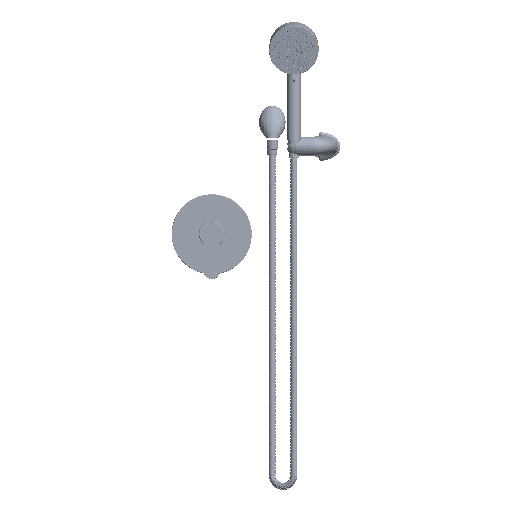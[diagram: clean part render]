
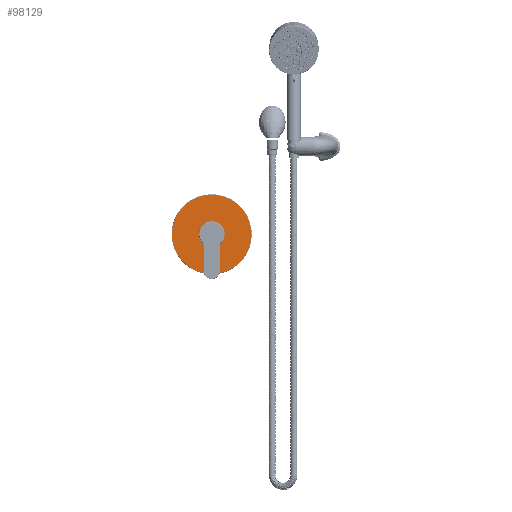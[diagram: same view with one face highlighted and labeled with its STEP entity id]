
A CAD part, top view. The second image highlights one B-rep face of the part: STEP entity #98129.
In plain terms, the highlighted planar face has unit normal (0, 0, 1).
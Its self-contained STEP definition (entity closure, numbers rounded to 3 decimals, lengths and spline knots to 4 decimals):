
#18887 = CIRCLE ( 'NONE', #64795, 3.1306 ) ;
#21430 = CARTESIAN_POINT ( 'NONE',  ( 1.9687, 3.7325, 5.2986 ) ) ;
#28479 = CARTESIAN_POINT ( 'NONE',  ( 5.0993, 3.7325, 5.2986 ) ) ;
#35749 = FACE_OUTER_BOUND ( 'NONE', #228674, .T. ) ;
#36557 = CARTESIAN_POINT ( 'NONE',  ( 1.9687, 3.7325, 5.2986 ) ) ;
#39128 = CARTESIAN_POINT ( 'NONE',  ( 1.9687, 3.7325, 5.2986 ) ) ;
#40436 = DIRECTION ( 'NONE',  ( 0., 0., 1. ) ) ;
#50359 = AXIS2_PLACEMENT_3D ( 'NONE', #36557, #116377, #196146 ) ;
#51207 = EDGE_CURVE ( 'NONE', #70795, #238923, #229998, .T. ) ;
#60031 = DIRECTION ( 'NONE',  ( 1., 0., 0. ) ) ;
#62976 = ORIENTED_EDGE ( 'NONE', *, *, #210731, .T. ) ;
#64795 = AXIS2_PLACEMENT_3D ( 'NONE', #21430, #119605, #141804 ) ;
#66908 = ORIENTED_EDGE ( 'NONE', *, *, #51207, .F. ) ;
#70795 = VERTEX_POINT ( 'NONE', #87758 ) ;
#73942 = AXIS2_PLACEMENT_3D ( 'NONE', #195352, #251648, #94664 ) ;
#78948 = EDGE_CURVE ( 'NONE', #238923, #70795, #172049, .T. ) ;
#87758 = CARTESIAN_POINT ( 'NONE',  ( 2.9942, 3.7325, 5.2986 ) ) ;
#92024 = ORIENTED_EDGE ( 'NONE', *, *, #78948, .F. ) ;
#92086 = FACE_BOUND ( 'NONE', #239491, .T. ) ;
#94664 = DIRECTION ( 'NONE',  ( 1., 0., 0. ) ) ;
#96551 = CARTESIAN_POINT ( 'NONE',  ( -1.162, 3.7325, 5.2986 ) ) ;
#98129 = ADVANCED_FACE ( 'NONE', ( #35749, #92086 ), #171861, .T. ) ;
#116377 = DIRECTION ( 'NONE',  ( 0., 0., 1. ) ) ;
#119605 = DIRECTION ( 'NONE',  ( 0., 0., 1. ) ) ;
#140172 = DIRECTION ( 'NONE',  ( 0., 0., 1. ) ) ;
#141804 = DIRECTION ( 'NONE',  ( 1., 0., 0. ) ) ;
#145806 = EDGE_CURVE ( 'NONE', #177824, #247182, #152704, .T. ) ;
#152704 = CIRCLE ( 'NONE', #215418, 3.1306 ) ;
#157195 = DIRECTION ( 'NONE',  ( 1., 0., 0. ) ) ;
#171861 = PLANE ( 'NONE',  #73942 ) ;
#172049 = CIRCLE ( 'NONE', #222068, 1.0255 ) ;
#177824 = VERTEX_POINT ( 'NONE', #28479 ) ;
#195352 = CARTESIAN_POINT ( 'NONE',  ( 1.9687, 3.7325, 5.2986 ) ) ;
#196146 = DIRECTION ( 'NONE',  ( 1., 0., 0. ) ) ;
#205495 = CARTESIAN_POINT ( 'NONE',  ( 0.9432, 3.7325, 5.2986 ) ) ;
#210731 = EDGE_CURVE ( 'NONE', #247182, #177824, #18887, .T. ) ;
#215418 = AXIS2_PLACEMENT_3D ( 'NONE', #39128, #40436, #60031 ) ;
#222068 = AXIS2_PLACEMENT_3D ( 'NONE', #238263, #140172, #157195 ) ;
#228674 = EDGE_LOOP ( 'NONE', ( #250108, #62976 ) ) ;
#229998 = CIRCLE ( 'NONE', #50359, 1.0255 ) ;
#238263 = CARTESIAN_POINT ( 'NONE',  ( 1.9687, 3.7325, 5.2986 ) ) ;
#238923 = VERTEX_POINT ( 'NONE', #205495 ) ;
#239491 = EDGE_LOOP ( 'NONE', ( #66908, #92024 ) ) ;
#247182 = VERTEX_POINT ( 'NONE', #96551 ) ;
#250108 = ORIENTED_EDGE ( 'NONE', *, *, #145806, .T. ) ;
#251648 = DIRECTION ( 'NONE',  ( 0., 0., 1. ) ) ;
